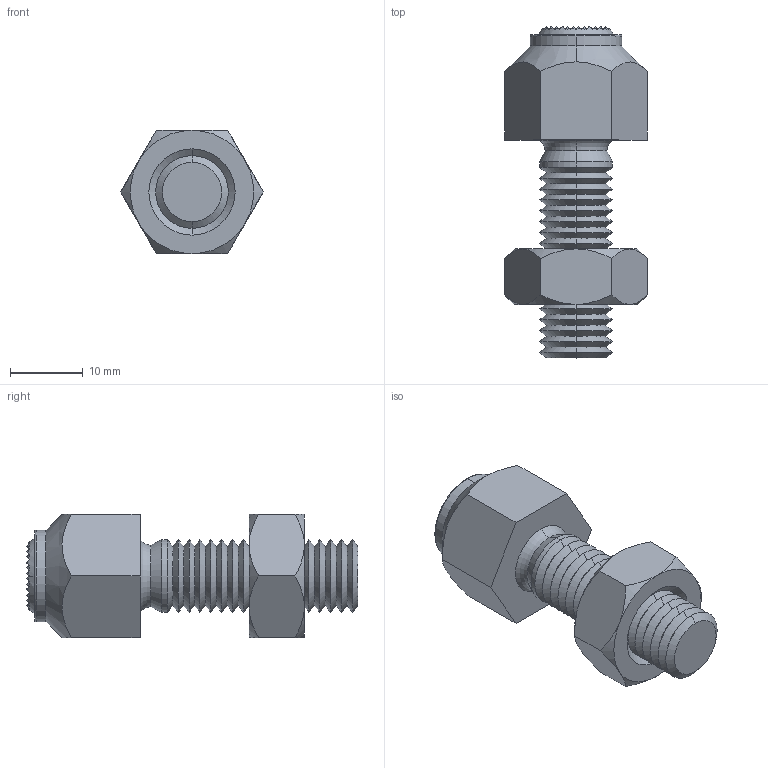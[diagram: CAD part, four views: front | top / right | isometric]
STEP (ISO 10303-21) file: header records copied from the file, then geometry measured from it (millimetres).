
FILE_DESCRIPTION (( 'STEP AP203' ), '1' );
FILE_NAME ('34120.W0316.step', '2017-03-27T09:21:25', ( 'User' ), ( '' ), 'SwSTEP 2.0', 'SolidWorks 2009', '' );
FILE_SCHEMA (( 'CONFIG_CONTROL_DESIGN' ));
Length unit declared in the file: millimetre
Products named in the file (4): 34120.W0316; Part1_34120.W0316; Part2_34120.W0316; Part3_34120.W0316
Assembly tree (3 placements, depth 2):
  34120.W0316
    Part3_34120.W0316
    Part1_34120.W0316
    Part2_34120.W0316
Bounding box: 19.63 x 45.7 x 17 mm (x, y, z)
Volume: 6496.9 mm3; surface area: 4200.5 mm2
Topology: 3 solids, 3 shells, 665 faces, 1166 edges, 505 vertices
Faces by surface type: plane 555, cone 90, torus 8, cylinder 8, sphere 4
Entity records: 15276 total; most frequent: DIRECTION 2718, CARTESIAN_POINT 2566, ORIENTED_EDGE 2312, EDGE_CURVE 1156, AXIS2_PLACEMENT_3D 923, VECTOR 872, LINE 872, EDGE_LOOP 669
